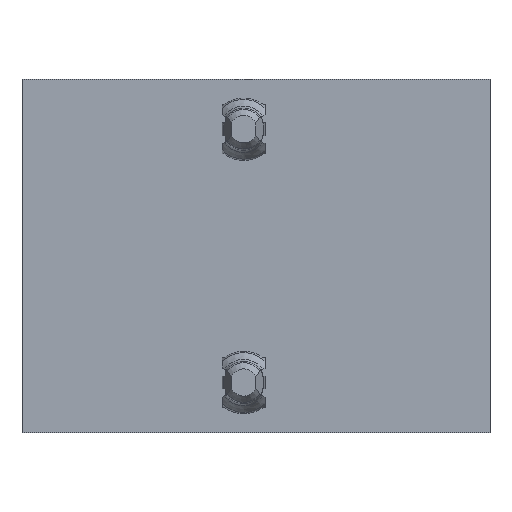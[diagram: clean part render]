
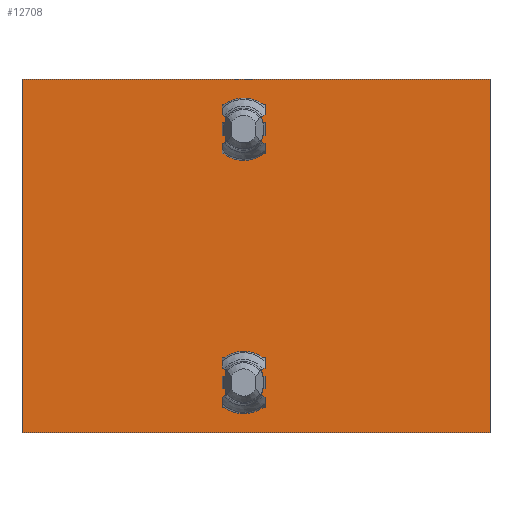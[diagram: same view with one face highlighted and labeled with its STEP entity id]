
A CAD part, top view. The second image highlights one B-rep face of the part: STEP entity #12708.
In plain terms, the highlighted planar face has unit normal (0, 0, 1).
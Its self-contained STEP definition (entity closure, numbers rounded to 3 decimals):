
#1241=ORIENTED_EDGE('',*,*,#4652,.T.);
#1242=ORIENTED_EDGE('',*,*,#4760,.F.);
#1243=ORIENTED_EDGE('',*,*,#4655,.F.);
#1244=ORIENTED_EDGE('',*,*,#4771,.T.);
#1245=ORIENTED_EDGE('',*,*,#4905,.T.);
#1246=ORIENTED_EDGE('',*,*,#4906,.F.);
#1247=ORIENTED_EDGE('',*,*,#4907,.F.);
#1248=ORIENTED_EDGE('',*,*,#4908,.T.);
#1249=ORIENTED_EDGE('',*,*,#4782,.F.);
#1250=ORIENTED_EDGE('',*,*,#4893,.T.);
#1251=ORIENTED_EDGE('',*,*,#4778,.T.);
#1252=ORIENTED_EDGE('',*,*,#4904,.F.);
#4652=EDGE_CURVE('',#6586,#6588,#7880,.T.);
#4655=EDGE_CURVE('',#6591,#6592,#7883,.T.);
#4760=EDGE_CURVE('',#6592,#6588,#7926,.T.);
#4771=EDGE_CURVE('',#6591,#6586,#7935,.T.);
#4778=EDGE_CURVE('',#6675,#6673,#7940,.T.);
#4782=EDGE_CURVE('',#6677,#6679,#7944,.T.);
#4893=EDGE_CURVE('',#6677,#6675,#7991,.T.);
#4904=EDGE_CURVE('',#6679,#6673,#8000,.T.);
#4905=EDGE_CURVE('',#6761,#6762,#8001,.T.);
#4906=EDGE_CURVE('',#6763,#6762,#8002,.T.);
#4907=EDGE_CURVE('',#6764,#6763,#8003,.T.);
#4908=EDGE_CURVE('',#6764,#6761,#8004,.T.);
#6586=VERTEX_POINT('',#18225);
#6588=VERTEX_POINT('',#18229);
#6591=VERTEX_POINT('',#18236);
#6592=VERTEX_POINT('',#18238);
#6673=VERTEX_POINT('',#18585);
#6675=VERTEX_POINT('',#18588);
#6677=VERTEX_POINT('',#18594);
#6679=VERTEX_POINT('',#18597);
#6761=VERTEX_POINT('',#18946);
#6762=VERTEX_POINT('',#18947);
#6763=VERTEX_POINT('',#18949);
#6764=VERTEX_POINT('',#18951);
#7880=LINE('',#18230,#9270);
#7883=LINE('',#18237,#9273);
#7926=LINE('',#18553,#9316);
#7935=LINE('',#18573,#9325);
#7940=LINE('',#18587,#9330);
#7944=LINE('',#18596,#9334);
#7991=LINE('',#18922,#9381);
#8000=LINE('',#18942,#9390);
#8001=LINE('',#18945,#9391);
#8002=LINE('',#18948,#9392);
#8003=LINE('',#18950,#9393);
#8004=LINE('',#18952,#9394);
#9270=VECTOR('',#14642,1000.);
#9273=VECTOR('',#14647,1000.);
#9316=VECTOR('',#14802,1000.);
#9325=VECTOR('',#14821,1000.);
#9330=VECTOR('',#14836,1000.);
#9334=VECTOR('',#14842,1000.);
#9381=VECTOR('',#15007,1000.);
#9390=VECTOR('',#15026,1000.);
#9391=VECTOR('',#15031,1000.);
#9392=VECTOR('',#15032,1000.);
#9393=VECTOR('',#15033,1000.);
#9394=VECTOR('',#15034,1000.);
#10731=EDGE_LOOP('',(#1241,#1242,#1243,#1244));
#10732=EDGE_LOOP('',(#1245,#1246,#1247,#1248));
#10733=EDGE_LOOP('',(#1249,#1250,#1251,#1252));
#11467=FACE_BOUND('',#10731,.T.);
#11468=FACE_BOUND('',#10732,.T.);
#11469=FACE_BOUND('',#10733,.T.);
#12171=PLANE('',#13672);
#12708=ADVANCED_FACE('',(#11467,#11468,#11469),#12171,.T.);
#13672=AXIS2_PLACEMENT_3D('',#18944,#15029,#15030);
#14642=DIRECTION('',(0.,-1.,0.));
#14647=DIRECTION('',(0.,-1.,0.));
#14802=DIRECTION('',(1.,0.,0.));
#14821=DIRECTION('',(1.,0.,0.));
#14836=DIRECTION('',(0.,-1.,0.));
#14842=DIRECTION('',(0.,-1.,0.));
#15007=DIRECTION('',(1.,0.,0.));
#15026=DIRECTION('',(1.,0.,0.));
#15029=DIRECTION('',(0.,0.,1.));
#15030=DIRECTION('',(1.,0.,0.));
#15031=DIRECTION('',(0.,1.,0.));
#15032=DIRECTION('',(1.,0.,0.));
#15033=DIRECTION('',(0.,1.,0.));
#15034=DIRECTION('',(1.,0.,0.));
#18225=CARTESIAN_POINT('',(1.7,10.5,0.));
#18229=CARTESIAN_POINT('',(1.7,9.5,0.));
#18230=CARTESIAN_POINT('',(1.7,10.5,0.));
#18236=CARTESIAN_POINT('',(-1.7,10.5,0.));
#18237=CARTESIAN_POINT('',(-1.7,10.5,0.));
#18238=CARTESIAN_POINT('',(-1.7,9.5,0.));
#18553=CARTESIAN_POINT('',(-1.7,9.5,0.));
#18573=CARTESIAN_POINT('',(-1.7,10.5,0.));
#18585=CARTESIAN_POINT('',(1.7,-10.5,0.));
#18587=CARTESIAN_POINT('',(1.7,-9.5,0.));
#18588=CARTESIAN_POINT('',(1.7,-9.5,0.));
#18594=CARTESIAN_POINT('',(-1.7,-9.5,0.));
#18596=CARTESIAN_POINT('',(-1.7,-9.5,0.));
#18597=CARTESIAN_POINT('',(-1.7,-10.5,0.));
#18922=CARTESIAN_POINT('',(-1.7,-9.5,0.));
#18942=CARTESIAN_POINT('',(-1.7,-10.5,0.));
#18944=CARTESIAN_POINT('',(19.453,-13.95,0.));
#18945=CARTESIAN_POINT('',(19.453,-13.95,0.));
#18946=CARTESIAN_POINT('',(19.453,-13.95,0.));
#18947=CARTESIAN_POINT('',(19.453,13.95,0.));
#18948=CARTESIAN_POINT('',(19.453,13.95,0.));
#18949=CARTESIAN_POINT('',(-17.5,13.95,0.));
#18950=CARTESIAN_POINT('',(-17.5,-13.95,0.));
#18951=CARTESIAN_POINT('',(-17.5,-13.95,0.));
#18952=CARTESIAN_POINT('',(19.453,-13.95,0.));
